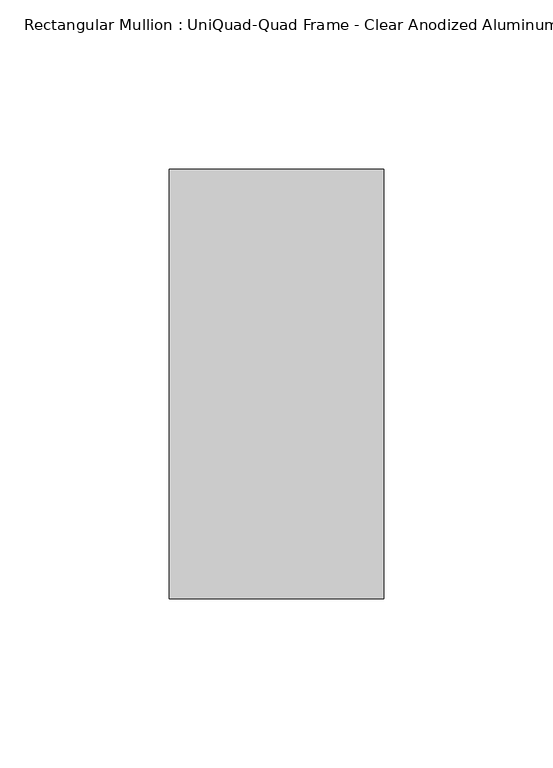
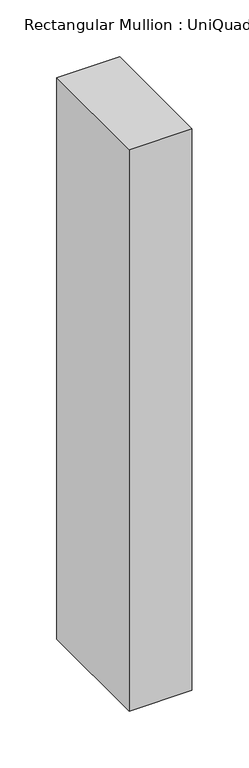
"""IFC4 building model written with IfcOpenShell, lengths in millimetres: member geometry, Rectangular Mullion : UniQuad-Quad Frame - Clear Anodized Aluminum."""

from ifc_helpers import new_model, si_unit, frame, origin, place, context, project, spatial, polyline, outline, extrude, source, transform, mapped, element, save


def rectangular_mullion_uniquad_quad_frame_clear_anodized_5a02334a(model_context):
    return source(origin(), model_context, "Body", "SweptSolid", [
        extrude(outline(polyline([(0.0, 63.5), (0.0, -63.5), (-63.5, -63.5), (-63.5, 63.5), (0.0, 63.5)])), frame((0.0, 0.0, -601.9601562), z_axis=(0.0, 0.0, 1.0), x_axis=(1.0, 0.0, 0.0)), (0.0, 0.0, 1.0), 601.9601562),
    ])


if __name__ == "__main__":
    model = new_model("IFC4")
    model_context = context("Model", 3, world=origin())
    ifc_project = project(units=[si_unit("LENGTHUNIT", "METRE", prefix="MILLI")], contexts=[model_context])
    site = spatial("IfcSite", under=ifc_project)
    building = spatial("IfcBuilding", under=site)
    placement = place(None, origin())
    rectangular_mullion_uniquad_quad_frame_clear_anodized_shape = rectangular_mullion_uniquad_quad_frame_clear_anodized_5a02334a(model_context)
    element("IfcMember", 1, ObjectType="Rectangular Mullion : UniQuad-Quad Frame - Clear Anodized Aluminum", at=placement, inside=building, context=model_context, shape_type="MappedRepresentation", body=[
        mapped(rectangular_mullion_uniquad_quad_frame_clear_anodized_shape, transform((0.0, 0.0, 0.0), x_axis=(1.0, 0.0, 0.0), y_axis=(0.0, 1.0, 0.0), z_axis=(0.0, 0.0, 1.0))),
    ])
    save(model, "model.ifc")
